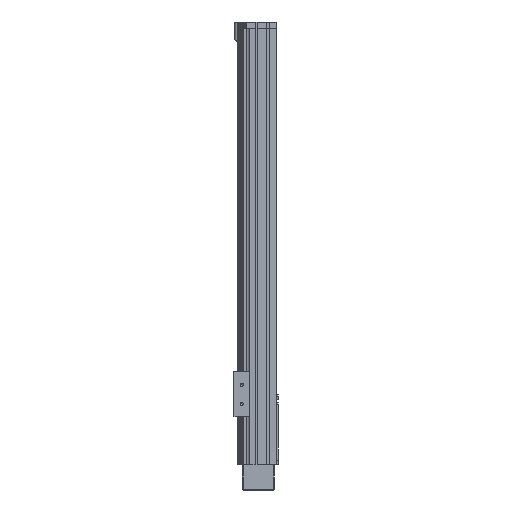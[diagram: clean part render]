
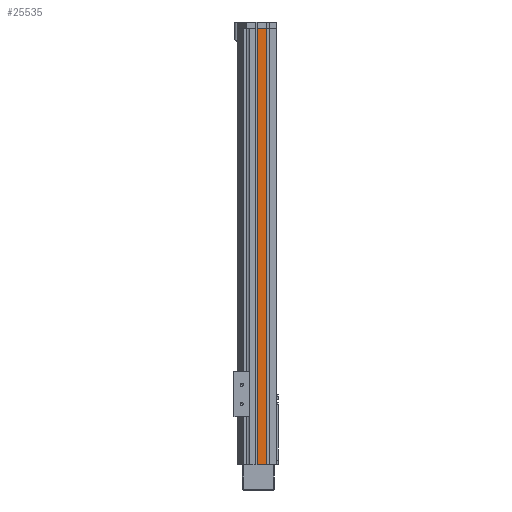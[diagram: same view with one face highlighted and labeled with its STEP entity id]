
A CAD part, left-side view. The second image highlights one B-rep face of the part: STEP entity #25535.
In plain terms, the highlighted planar face has unit normal (-1, 0, 0).
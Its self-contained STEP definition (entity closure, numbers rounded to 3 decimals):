
#22950 = VERTEX_POINT ( 'NONE', #23462 ) ;
#23114 = VERTEX_POINT ( 'NONE', #23459 ) ;
#23353 = VERTEX_POINT ( 'NONE', #23554 ) ;
#23356 = EDGE_CURVE ( 'NONE', #23114, #22950, #23544, .T. ) ;
#23459 = CARTESIAN_POINT ( 'NONE',  ( -50., 30., 680. ) ) ;
#23462 = CARTESIAN_POINT ( 'NONE',  ( -50., 30., 0. ) ) ;
#23541 = DIRECTION ( 'NONE',  ( 0., 0., -1. ) ) ;
#23542 = VECTOR ( 'NONE', #23541, 1000. ) ;
#23543 = CARTESIAN_POINT ( 'NONE',  ( -50., 30., 1400. ) ) ;
#23544 = LINE ( 'NONE', #23543, #23542 ) ;
#23554 = CARTESIAN_POINT ( 'NONE',  ( -50., 15.5, 0. ) ) ;
#23830 = PLANE ( 'NONE',  #23880 ) ;
#23831 = DIRECTION ( 'NONE',  ( 0., 0., -1. ) ) ;
#23832 = VECTOR ( 'NONE', #23831, 1000. ) ;
#23833 = CARTESIAN_POINT ( 'NONE',  ( -50., 15.5, 1400. ) ) ;
#23834 = LINE ( 'NONE', #23833, #23832 ) ;
#23835 = DIRECTION ( 'NONE',  ( 0., -1., 0. ) ) ;
#23836 = VECTOR ( 'NONE', #23835, 1000. ) ;
#23837 = CARTESIAN_POINT ( 'NONE',  ( -50., 30., 680. ) ) ;
#23838 = LINE ( 'NONE', #23837, #23836 ) ;
#23839 = CARTESIAN_POINT ( 'NONE',  ( -50., 15.5, 680. ) ) ;
#23841 = DIRECTION ( 'NONE',  ( 0., -1., 0. ) ) ;
#23842 = VECTOR ( 'NONE', #23841, 1000. ) ;
#23843 = CARTESIAN_POINT ( 'NONE',  ( -50., 15.5, 0. ) ) ;
#23846 = LINE ( 'NONE', #23843, #23842 ) ;
#23868 = DIRECTION ( 'NONE',  ( 0., 0., -1. ) ) ;
#23871 = DIRECTION ( 'NONE',  ( 1., 0., 0. ) ) ;
#23873 = CARTESIAN_POINT ( 'NONE',  ( -50., 15.5, 1400. ) ) ;
#23879 = FACE_OUTER_BOUND ( 'NONE', #25531, .T. ) ;
#23880 = AXIS2_PLACEMENT_3D ( 'NONE', #23873, #23871, #23868 ) ;
#25287 = ORIENTED_EDGE ( 'NONE', *, *, #25343, .F. ) ;
#25316 = EDGE_CURVE ( 'NONE', #22950, #23353, #23846, .T. ) ;
#25343 = EDGE_CURVE ( 'NONE', #23114, #25497, #23838, .T. ) ;
#25353 = EDGE_CURVE ( 'NONE', #25497, #23353, #23834, .T. ) ;
#25474 = ORIENTED_EDGE ( 'NONE', *, *, #25353, .F. ) ;
#25479 = ORIENTED_EDGE ( 'NONE', *, *, #23356, .T. ) ;
#25497 = VERTEX_POINT ( 'NONE', #23839 ) ;
#25531 = EDGE_LOOP ( 'NONE', ( #25474, #25287, #25479, #25730 ) ) ;
#25535 = ADVANCED_FACE ( 'NONE', ( #23879 ), #23830, .F. ) ;
#25730 = ORIENTED_EDGE ( 'NONE', *, *, #25316, .T. ) ;
